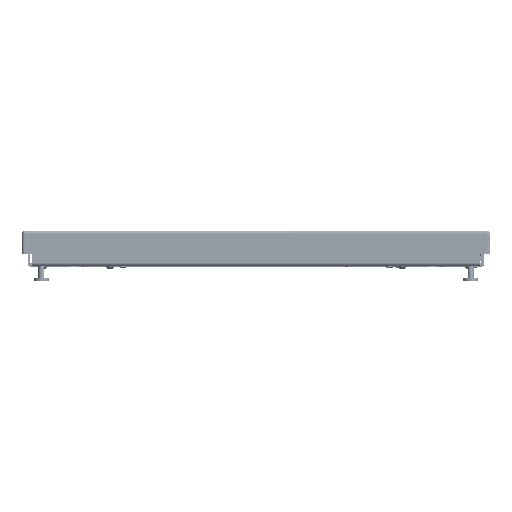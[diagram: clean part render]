
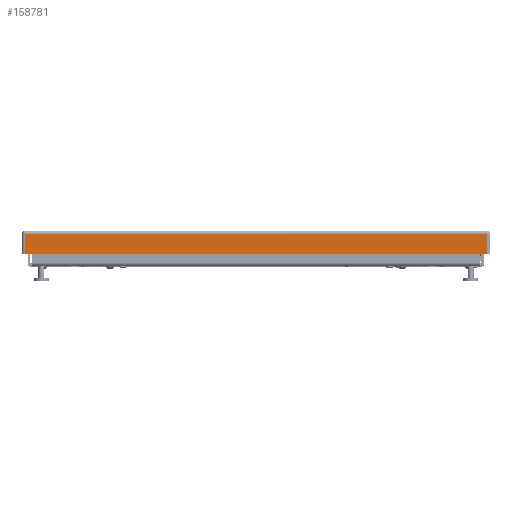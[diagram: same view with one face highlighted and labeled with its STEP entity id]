
A CAD part, top view. The second image highlights one B-rep face of the part: STEP entity #158781.
In plain terms, the highlighted planar face has unit normal (0, 0, 1) as drawn and (0, 0, -1) by its records, which use the part's own axes.
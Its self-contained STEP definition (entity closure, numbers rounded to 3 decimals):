
#2759 = CARTESIAN_POINT ( 'NONE',  ( 296.27, 26.437, -300. ) ) ;
#3729 = LINE ( 'NONE', #61130, #212766 ) ;
#4925 = FACE_OUTER_BOUND ( 'NONE', #470054, .T. ) ;
#16076 = VECTOR ( 'NONE', #425715, 1000. ) ;
#30570 = DIRECTION ( 'NONE',  ( 0., 0., 1. ) ) ;
#61130 = CARTESIAN_POINT ( 'NONE',  ( 300., 0.813, -300. ) ) ;
#66968 = CARTESIAN_POINT ( 'NONE',  ( 296.27, 0.813, -300. ) ) ;
#89318 = CARTESIAN_POINT ( 'NONE',  ( -296.27, 26.437, -300. ) ) ;
#120966 = VERTEX_POINT ( 'NONE', #89318 ) ;
#158781 = ADVANCED_FACE ( 'NONE', ( #4925 ), #592667, .F. ) ;
#198885 = DIRECTION ( 'NONE',  ( 1., 0., 0. ) ) ;
#212766 = VECTOR ( 'NONE', #577995, 1000. ) ;
#248447 = EDGE_CURVE ( 'NONE', #301649, #120966, #307360, .T. ) ;
#253704 = EDGE_CURVE ( 'NONE', #521014, #489932, #659182, .T. ) ;
#272874 = CARTESIAN_POINT ( 'NONE',  ( -296.27, 0.813, -300. ) ) ;
#291132 = DIRECTION ( 'NONE',  ( 0., -1., 0. ) ) ;
#298768 = ORIENTED_EDGE ( 'NONE', *, *, #423435, .F. ) ;
#301649 = VERTEX_POINT ( 'NONE', #272874 ) ;
#303720 = ORIENTED_EDGE ( 'NONE', *, *, #654927, .T. ) ;
#307360 = LINE ( 'NONE', #368300, #597114 ) ;
#357206 = ORIENTED_EDGE ( 'NONE', *, *, #253704, .F. ) ;
#368300 = CARTESIAN_POINT ( 'NONE',  ( -296.27, 0., -300. ) ) ;
#411413 = VECTOR ( 'NONE', #198885, 1000. ) ;
#414559 = CARTESIAN_POINT ( 'NONE',  ( 296.27, 0., -300. ) ) ;
#423435 = EDGE_CURVE ( 'NONE', #301649, #521014, #3729, .T. ) ;
#425715 = DIRECTION ( 'NONE',  ( 0., 1., 0. ) ) ;
#470054 = EDGE_LOOP ( 'NONE', ( #298768, #539779, #303720, #357206 ) ) ;
#489932 = VERTEX_POINT ( 'NONE', #2759 ) ;
#495714 = CARTESIAN_POINT ( 'NONE',  ( 0., 0., -300. ) ) ;
#507516 = LINE ( 'NONE', #610211, #411413 ) ;
#521014 = VERTEX_POINT ( 'NONE', #66968 ) ;
#521292 = DIRECTION ( 'NONE',  ( 0., 1., 0. ) ) ;
#522015 = AXIS2_PLACEMENT_3D ( 'NONE', #495714, #30570, #291132 ) ;
#539779 = ORIENTED_EDGE ( 'NONE', *, *, #248447, .T. ) ;
#577995 = DIRECTION ( 'NONE',  ( 1., 0., 0. ) ) ;
#592667 = PLANE ( 'NONE',  #522015 ) ;
#597114 = VECTOR ( 'NONE', #521292, 1000. ) ;
#610211 = CARTESIAN_POINT ( 'NONE',  ( 0., 26.437, -300. ) ) ;
#654927 = EDGE_CURVE ( 'NONE', #120966, #489932, #507516, .T. ) ;
#659182 = LINE ( 'NONE', #414559, #16076 ) ;
